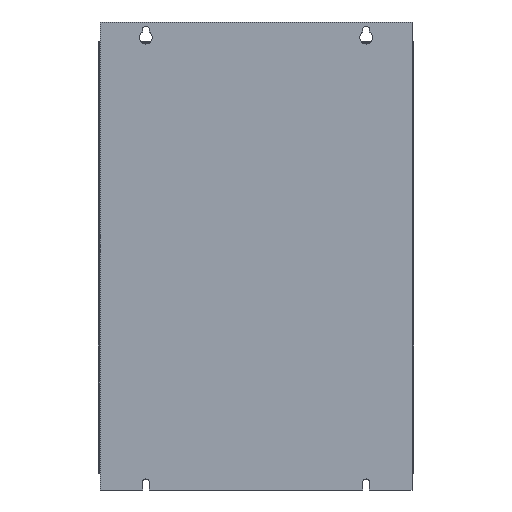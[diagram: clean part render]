
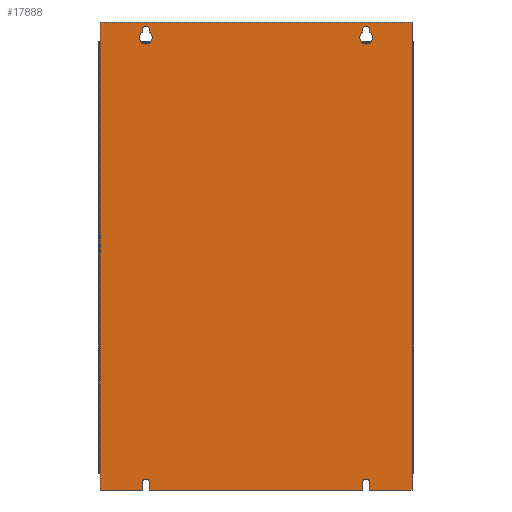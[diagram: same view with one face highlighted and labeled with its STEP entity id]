
A CAD part, front view. The second image highlights one B-rep face of the part: STEP entity #17888.
In plain terms, the highlighted planar face has unit normal (0, -1, 0).
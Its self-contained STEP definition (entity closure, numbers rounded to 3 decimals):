
#1=DIRECTION('',(0.,0.,-1.));
#2=VECTOR('',#1,765.);
#3=CARTESIAN_POINT('',(255.,0.,385.));
#4=LINE('',#3,#2);
#5=DIRECTION('',(-1.,0.,0.));
#6=VECTOR('',#5,69.5);
#7=CARTESIAN_POINT('',(255.,0.,-380.));
#8=LINE('',#7,#6);
#9=DIRECTION('',(0.,0.,1.));
#10=VECTOR('',#9,12.5);
#11=CARTESIAN_POINT('',(185.5,0.,-380.));
#12=LINE('',#11,#10);
#13=CARTESIAN_POINT('',(180.,0.,-367.5));
#14=DIRECTION('',(0.,-1.,0.));
#15=DIRECTION('',(1.,0.,0.));
#16=AXIS2_PLACEMENT_3D('',#13,#14,#15);
#18=DIRECTION('',(0.,0.,-1.));
#19=VECTOR('',#18,12.5);
#20=CARTESIAN_POINT('',(174.5,0.,-367.5));
#21=LINE('',#20,#19);
#22=DIRECTION('',(-1.,0.,0.));
#23=VECTOR('',#22,349.);
#24=CARTESIAN_POINT('',(174.5,0.,-380.));
#25=LINE('',#24,#23);
#26=DIRECTION('',(0.,0.,1.));
#27=VECTOR('',#26,12.5);
#28=CARTESIAN_POINT('',(-174.5,0.,-380.));
#29=LINE('',#28,#27);
#30=CARTESIAN_POINT('',(-180.,0.,-367.5));
#31=DIRECTION('',(0.,-1.,0.));
#32=DIRECTION('',(1.,0.,0.));
#33=AXIS2_PLACEMENT_3D('',#30,#31,#32);
#35=DIRECTION('',(0.,0.,-1.));
#36=VECTOR('',#35,12.5);
#37=CARTESIAN_POINT('',(-185.5,0.,-367.5));
#38=LINE('',#37,#36);
#39=DIRECTION('',(-1.,0.,0.));
#40=VECTOR('',#39,69.5);
#41=CARTESIAN_POINT('',(-185.5,0.,-380.));
#42=LINE('',#41,#40);
#43=DIRECTION('',(0.,0.,1.));
#44=VECTOR('',#43,765.);
#45=CARTESIAN_POINT('',(-255.,0.,-380.));
#46=LINE('',#45,#44);
#47=DIRECTION('',(1.,0.,0.));
#48=VECTOR('',#47,510.);
#49=CARTESIAN_POINT('',(-255.,0.,385.));
#50=LINE('',#49,#48);
#51=DIRECTION('',(0.,0.,-1.));
#52=VECTOR('',#51,4.056);
#53=CARTESIAN_POINT('',(-185.5,0.,372.5));
#54=LINE('',#53,#52);
#55=CARTESIAN_POINT('',(-180.,0.,359.5));
#56=DIRECTION('',(0.,-1.,0.));
#57=DIRECTION('',(-0.524,0.,0.852));
#58=AXIS2_PLACEMENT_3D('',#55,#56,#57);
#60=CARTESIAN_POINT('',(-180.,0.,359.5));
#61=DIRECTION('',(0.,-1.,0.));
#62=DIRECTION('',(-1.,0.,0.));
#63=AXIS2_PLACEMENT_3D('',#60,#61,#62);
#65=CARTESIAN_POINT('',(-180.,0.,359.5));
#66=DIRECTION('',(0.,-1.,0.));
#67=DIRECTION('',(1.,0.,0.));
#68=AXIS2_PLACEMENT_3D('',#65,#66,#67);
#70=DIRECTION('',(0.,0.,1.));
#71=VECTOR('',#70,4.056);
#72=CARTESIAN_POINT('',(-174.5,0.,368.444));
#73=LINE('',#72,#71);
#74=CARTESIAN_POINT('',(-180.,0.,372.5));
#75=DIRECTION('',(0.,-1.,0.));
#76=DIRECTION('',(1.,0.,0.));
#77=AXIS2_PLACEMENT_3D('',#74,#75,#76);
#79=CARTESIAN_POINT('',(180.,0.,372.5));
#80=DIRECTION('',(0.,-1.,0.));
#81=DIRECTION('',(1.,0.,0.));
#82=AXIS2_PLACEMENT_3D('',#79,#80,#81);
#84=DIRECTION('',(0.,0.,-1.));
#85=VECTOR('',#84,4.056);
#86=CARTESIAN_POINT('',(174.5,0.,372.5));
#87=LINE('',#86,#85);
#88=CARTESIAN_POINT('',(180.,0.,359.5));
#89=DIRECTION('',(0.,-1.,0.));
#90=DIRECTION('',(-0.524,0.,0.852));
#91=AXIS2_PLACEMENT_3D('',#88,#89,#90);
#93=CARTESIAN_POINT('',(180.,0.,359.5));
#94=DIRECTION('',(0.,-1.,0.));
#95=DIRECTION('',(-1.,0.,0.));
#96=AXIS2_PLACEMENT_3D('',#93,#94,#95);
#98=CARTESIAN_POINT('',(180.,0.,359.5));
#99=DIRECTION('',(0.,-1.,0.));
#100=DIRECTION('',(1.,0.,0.));
#101=AXIS2_PLACEMENT_3D('',#98,#99,#100);
#103=DIRECTION('',(0.,0.,1.));
#104=VECTOR('',#103,4.056);
#105=CARTESIAN_POINT('',(185.5,0.,368.444));
#106=LINE('',#105,#104);
#13461=CARTESIAN_POINT('',(255.,0.,385.));
#13462=CARTESIAN_POINT('',(255.,0.,-380.));
#13463=VERTEX_POINT('',#13461);
#13464=VERTEX_POINT('',#13462);
#13465=CARTESIAN_POINT('',(185.5,0.,-380.));
#13466=VERTEX_POINT('',#13465);
#13467=CARTESIAN_POINT('',(185.5,0.,-367.5));
#13468=VERTEX_POINT('',#13467);
#13469=CARTESIAN_POINT('',(174.5,0.,-367.5));
#13470=VERTEX_POINT('',#13469);
#13471=CARTESIAN_POINT('',(174.5,0.,-380.));
#13472=VERTEX_POINT('',#13471);
#13473=CARTESIAN_POINT('',(-174.5,0.,-380.));
#13474=VERTEX_POINT('',#13473);
#13475=CARTESIAN_POINT('',(-174.5,0.,-367.5));
#13476=VERTEX_POINT('',#13475);
#13477=CARTESIAN_POINT('',(-185.5,0.,-367.5));
#13478=VERTEX_POINT('',#13477);
#13479=CARTESIAN_POINT('',(-185.5,0.,-380.));
#13480=VERTEX_POINT('',#13479);
#13481=CARTESIAN_POINT('',(-255.,0.,-380.));
#13482=VERTEX_POINT('',#13481);
#13483=CARTESIAN_POINT('',(-255.,0.,385.));
#13484=VERTEX_POINT('',#13483);
#13485=CARTESIAN_POINT('',(-185.5,0.,372.5));
#13486=CARTESIAN_POINT('',(-185.5,0.,368.444));
#13487=VERTEX_POINT('',#13485);
#13488=VERTEX_POINT('',#13486);
#13489=CARTESIAN_POINT('',(-169.5,0.,359.5));
#13490=CARTESIAN_POINT('',(-174.5,0.,368.444));
#13491=VERTEX_POINT('',#13489);
#13492=VERTEX_POINT('',#13490);
#13493=CARTESIAN_POINT('',(-190.5,0.,359.5));
#13494=VERTEX_POINT('',#13493);
#13495=CARTESIAN_POINT('',(-174.5,0.,372.5));
#13496=VERTEX_POINT('',#13495);
#13497=CARTESIAN_POINT('',(185.5,0.,372.5));
#13498=CARTESIAN_POINT('',(174.5,0.,372.5));
#13499=VERTEX_POINT('',#13497);
#13500=VERTEX_POINT('',#13498);
#13501=CARTESIAN_POINT('',(174.5,0.,368.444));
#13502=VERTEX_POINT('',#13501);
#13503=CARTESIAN_POINT('',(190.5,0.,359.5));
#13504=CARTESIAN_POINT('',(185.5,0.,368.444));
#13505=VERTEX_POINT('',#13503);
#13506=VERTEX_POINT('',#13504);
#13507=CARTESIAN_POINT('',(169.5,0.,359.5));
#13508=VERTEX_POINT('',#13507);
#17829=CARTESIAN_POINT('',(0.,0.,0.));
#17830=DIRECTION('',(0.,1.,0.));
#17831=DIRECTION('',(1.,0.,0.));
#17832=AXIS2_PLACEMENT_3D('',#17829,#17830,#17831);
#17833=PLANE('',#17832);
#17835=ORIENTED_EDGE('',*,*,#17834,.T.);
#17837=ORIENTED_EDGE('',*,*,#17836,.T.);
#17839=ORIENTED_EDGE('',*,*,#17838,.T.);
#17841=ORIENTED_EDGE('',*,*,#17840,.T.);
#17843=ORIENTED_EDGE('',*,*,#17842,.T.);
#17845=ORIENTED_EDGE('',*,*,#17844,.T.);
#17847=ORIENTED_EDGE('',*,*,#17846,.T.);
#17849=ORIENTED_EDGE('',*,*,#17848,.T.);
#17851=ORIENTED_EDGE('',*,*,#17850,.T.);
#17853=ORIENTED_EDGE('',*,*,#17852,.T.);
#17855=ORIENTED_EDGE('',*,*,#17854,.T.);
#17857=ORIENTED_EDGE('',*,*,#17856,.T.);
#17858=EDGE_LOOP('',(#17835,#17837,#17839,#17841,#17843,#17845,#17847,#17849,
#17851,#17853,#17855,#17857));
#17859=FACE_OUTER_BOUND('',#17858,.F.);
#17861=ORIENTED_EDGE('',*,*,#17860,.T.);
#17863=ORIENTED_EDGE('',*,*,#17862,.T.);
#17865=ORIENTED_EDGE('',*,*,#17864,.T.);
#17867=ORIENTED_EDGE('',*,*,#17866,.T.);
#17869=ORIENTED_EDGE('',*,*,#17868,.T.);
#17871=ORIENTED_EDGE('',*,*,#17870,.T.);
#17872=EDGE_LOOP('',(#17861,#17863,#17865,#17867,#17869,#17871));
#17873=FACE_BOUND('',#17872,.F.);
#17875=ORIENTED_EDGE('',*,*,#17874,.T.);
#17877=ORIENTED_EDGE('',*,*,#17876,.T.);
#17879=ORIENTED_EDGE('',*,*,#17878,.T.);
#17881=ORIENTED_EDGE('',*,*,#17880,.T.);
#17883=ORIENTED_EDGE('',*,*,#17882,.T.);
#17885=ORIENTED_EDGE('',*,*,#17884,.T.);
#17886=EDGE_LOOP('',(#17875,#17877,#17879,#17881,#17883,#17885));
#17887=FACE_BOUND('',#17886,.F.);
#17888=ADVANCED_FACE('',(#17859,#17873,#17887),#17833,.F.);
#17=CIRCLE('',#16,5.5);
#34=CIRCLE('',#33,5.5);
#59=CIRCLE('',#58,10.5);
#64=CIRCLE('',#63,10.5);
#69=CIRCLE('',#68,10.5);
#78=CIRCLE('',#77,5.5);
#83=CIRCLE('',#82,5.5);
#92=CIRCLE('',#91,10.5);
#97=CIRCLE('',#96,10.5);
#102=CIRCLE('',#101,10.5);
#17834=EDGE_CURVE('',#13463,#13464,#4,.T.);
#17836=EDGE_CURVE('',#13464,#13466,#8,.T.);
#17838=EDGE_CURVE('',#13466,#13468,#12,.T.);
#17840=EDGE_CURVE('',#13468,#13470,#17,.T.);
#17842=EDGE_CURVE('',#13470,#13472,#21,.T.);
#17844=EDGE_CURVE('',#13472,#13474,#25,.T.);
#17846=EDGE_CURVE('',#13474,#13476,#29,.T.);
#17848=EDGE_CURVE('',#13476,#13478,#34,.T.);
#17850=EDGE_CURVE('',#13478,#13480,#38,.T.);
#17852=EDGE_CURVE('',#13480,#13482,#42,.T.);
#17854=EDGE_CURVE('',#13482,#13484,#46,.T.);
#17856=EDGE_CURVE('',#13484,#13463,#50,.T.);
#17860=EDGE_CURVE('',#13487,#13488,#54,.T.);
#17862=EDGE_CURVE('',#13488,#13494,#59,.T.);
#17864=EDGE_CURVE('',#13494,#13491,#64,.T.);
#17866=EDGE_CURVE('',#13491,#13492,#69,.T.);
#17868=EDGE_CURVE('',#13492,#13496,#73,.T.);
#17870=EDGE_CURVE('',#13496,#13487,#78,.T.);
#17874=EDGE_CURVE('',#13499,#13500,#83,.T.);
#17876=EDGE_CURVE('',#13500,#13502,#87,.T.);
#17878=EDGE_CURVE('',#13502,#13508,#92,.T.);
#17880=EDGE_CURVE('',#13508,#13505,#97,.T.);
#17882=EDGE_CURVE('',#13505,#13506,#102,.T.);
#17884=EDGE_CURVE('',#13506,#13499,#106,.T.);
